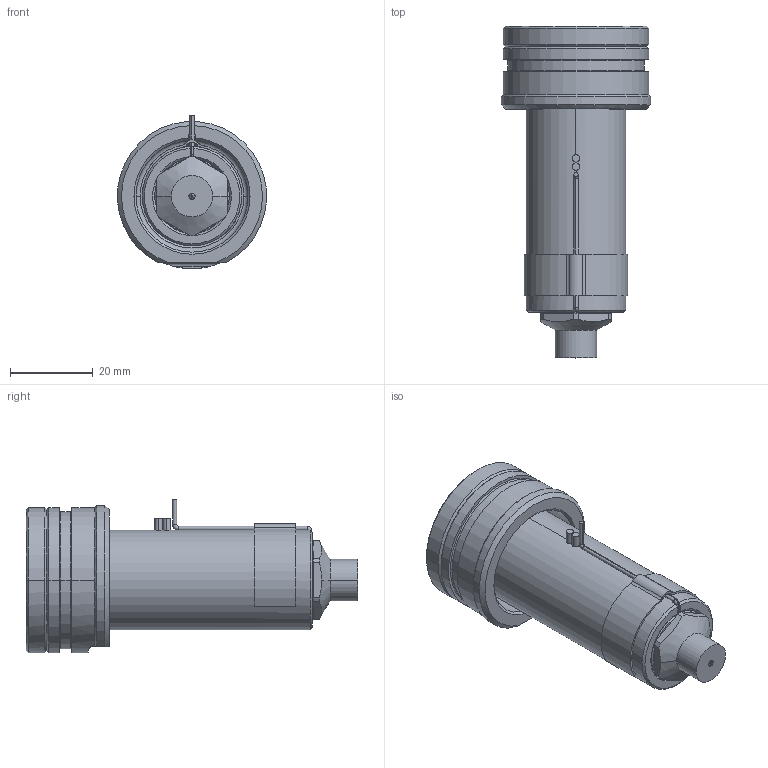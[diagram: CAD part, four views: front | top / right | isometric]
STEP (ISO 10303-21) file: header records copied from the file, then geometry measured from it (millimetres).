
FILE_DESCRIPTION((''),'2;1');
FILE_NAME('EO06_PG-FB_STD_060_SW','2024-02-19T11:24:33',('sundharh'),(''),'CREO PARAMETRIC BY PTC INC, 2023154','CREO PARAMETRIC BY PTC INC, 2023154','');
FILE_SCHEMA(('CONFIG_CONTROL_DESIGN'));
Length unit declared in the file: millimetre
Products named in the file (1): EO06_PG-FB_STD_060_SW
Bounding box: 35.93 x 80 x 37 mm (x, y, z)
Volume: 39113.9 mm3; surface area: 13285 mm2
Topology: 2 solids, 2 shells, 210 faces, 564 edges, 346 vertices
Faces by surface type: cylinder 85, plane 55, cone 40, torus 21, bspline 6, sphere 3
Entity records: 7503 total; most frequent: CARTESIAN_POINT 2157, DIRECTION 1179, ORIENTED_EDGE 1112, EDGE_CURVE 556, AXIS2_PLACEMENT_3D 496, VERTEX_POINT 346, CIRCLE 292, EDGE_LOOP 226
